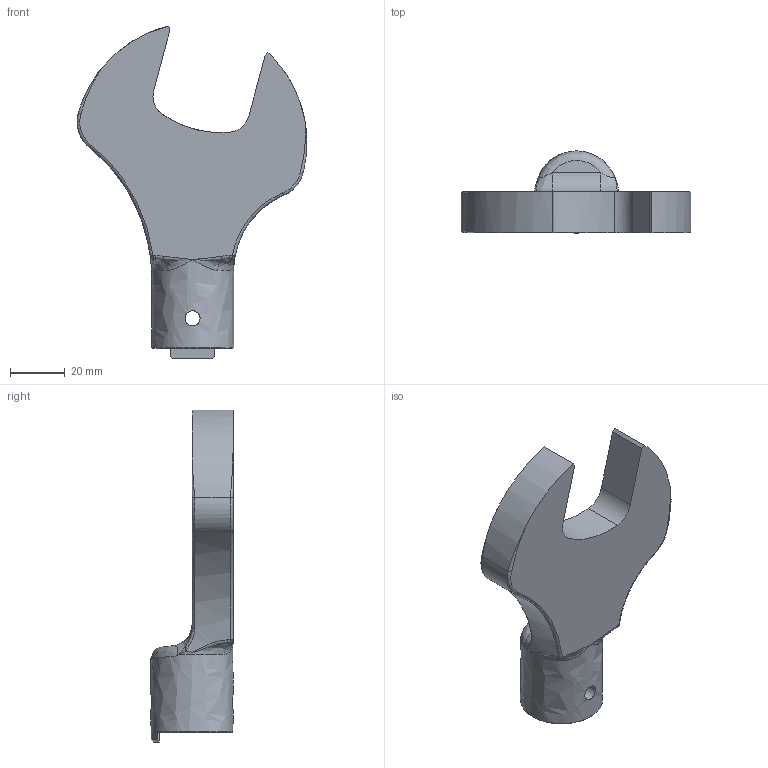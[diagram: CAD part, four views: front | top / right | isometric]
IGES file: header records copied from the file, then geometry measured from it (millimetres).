
Global section: file name: SH22DX36; native system: Autodesk Inventor 2016; preprocessor: unknown; author: Q600; date: 20151029.174620; units: millimetre
Bounding box: 83.97 x 30 x 121.32 mm (x, y, z)
Volume: 70910.8 mm3; surface area: 17872.7 mm2
Topology: 1 solids, 1 shells, 75 faces, 200 edges, 116 vertices
Faces by surface type: bspline 75
